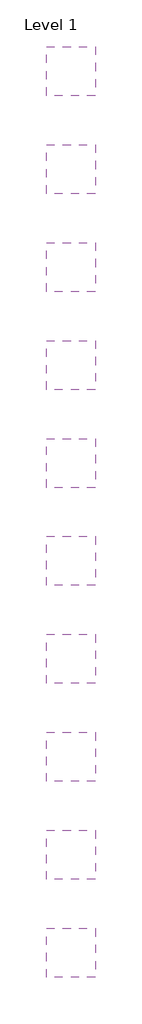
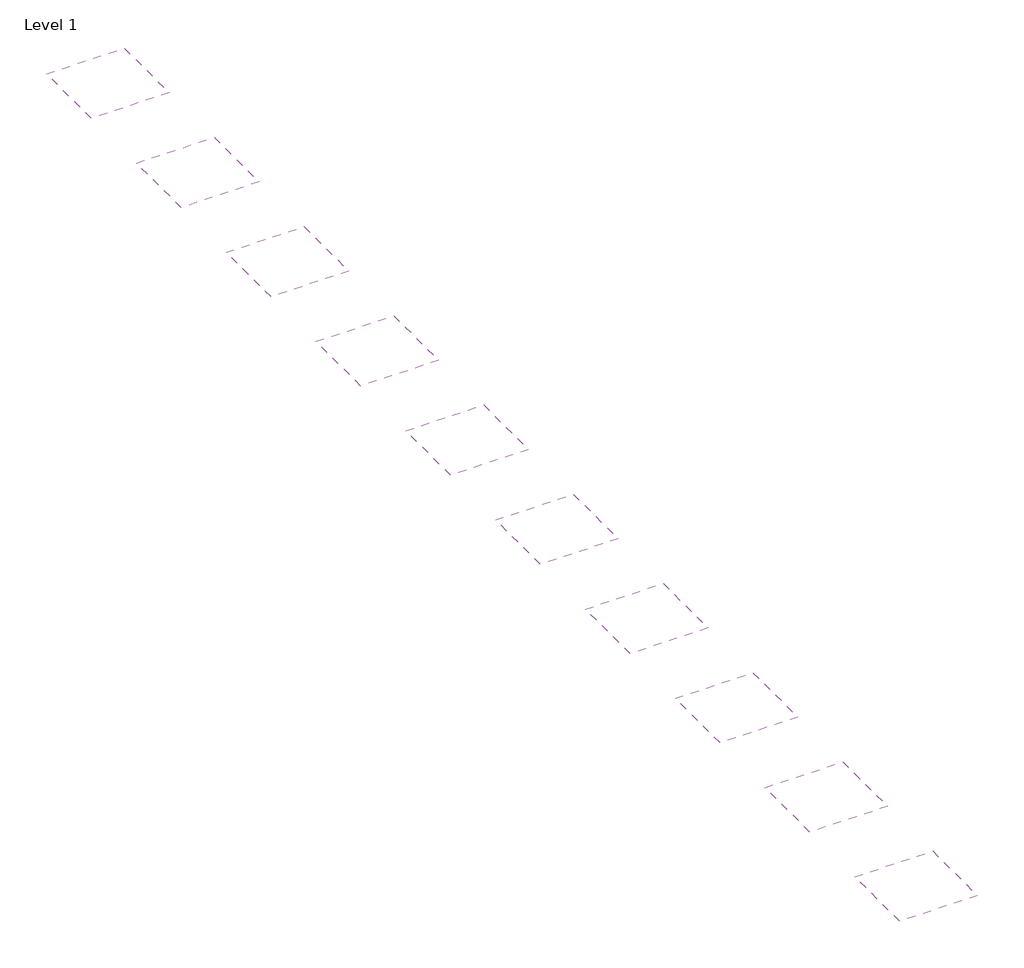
# One storey: 10 coverings.
"""IFC4 building model written with IfcOpenShell, lengths in millimetres."""

import ifcopenshell
import ifcopenshell.guid

model = None  # the IFC model being written
_history = None  # IfcOwnerHistory: only IFC2X3 demands one
_inside = {}  # id of a spatial element -> (the spatial element, [elements in it])
_under = {}  # id of a project, library or spatial element -> (it, [spatial elements below it])
_declared = {}  # id of a project -> (the project, [libraries it declares])
_typed = {}  # id of a type object -> (the type object, [elements of that type])
_made_of = {}  # id of a material, layer set ... -> (it, [elements and type objects made of it])


def new_model(schema):
    """Start an empty IFC model of exactly this schema.

    Asked for "IFC4X3", IfcOpenShell would pick the latest addendum, in which some entities
    have other attributes; the version numbers below select the first issue.
    IFC2X3 requires an IfcOwnerHistory on every rooted entity: one is made here for all.
    """
    global model, _history
    if schema == "IFC4X3":
        model = ifcopenshell.file(schema_version=(4, 3, 0, 0))
    else:
        model = ifcopenshell.file(schema=schema)
    _inside.clear()
    _under.clear()
    _declared.clear()
    _typed.clear()
    _made_of.clear()
    _history = None
    if model.schema == "IFC2X3":
        org = make("IfcOrganization", Name="unknown")
        user = make(
            "IfcPersonAndOrganization",
            ThePerson=make("IfcPerson", FamilyName="unknown"),
            TheOrganization=org,
        )
        app = make(
            "IfcApplication",
            ApplicationDeveloper=org,
            Version="unknown",
            ApplicationFullName="unknown",
            ApplicationIdentifier="unknown",
        )
        _history = make(
            "IfcOwnerHistory",
            OwningUser=user,
            OwningApplication=app,
            ChangeAction="ADDED",
            CreationDate=0,
        )
    return model


def make(cls, **values):
    """One entity of the class cls with the attributes given. An attribute that is None is left unset."""
    return model.create_entity(
        cls, **{name: value for name, value in values.items() if value is not None}
    )


def rooted(cls, **values):
    """An entity with a GlobalId (a new one), such as an element, a storey or a relation."""
    return make(cls, GlobalId=ifcopenshell.guid.new(), OwnerHistory=_history, **values)


def si_unit(unit_type, name, prefix=None):
    """IfcSIUnit, for example si_unit("LENGTHUNIT", "METRE", prefix="MILLI")."""
    return make("IfcSIUnit", UnitType=unit_type, Prefix=prefix, Name=name)


def assignment(units):
    """IfcUnitAssignment: the units of a project."""
    return None if units is None else make("IfcUnitAssignment", Units=units)


def point(xyz):
    """IfcCartesianPoint."""
    return None if xyz is None else make("IfcCartesianPoint", Coordinates=xyz)


def direction(xyz):
    """IfcDirection."""
    return None if xyz is None else make("IfcDirection", DirectionRatios=xyz)


def frame(location, z_axis=None, x_axis=None):
    """IfcAxis2Placement3D, a coordinate frame: its origin and axes. An axis left out is left unset."""
    return make(
        "IfcAxis2Placement3D",
        Location=point(location),
        Axis=direction(z_axis),
        RefDirection=direction(x_axis),
    )


def origin():
    """The frame at (0, 0, 0) with its axes left unset."""
    return frame((0.0, 0.0, 0.0))


def place(relative_to, where):
    """IfcLocalPlacement: puts the frame where relative to a parent placement (None: the world)."""
    return make(
        "IfcLocalPlacement", PlacementRelTo=relative_to, RelativePlacement=where
    )


def context(
    kind, dimensions, precision=None, world=None, true_north=None, identifier=None
):
    """IfcGeometricRepresentationContext, for example the 3D "Model" context."""
    return make(
        "IfcGeometricRepresentationContext",
        ContextIdentifier=identifier,
        ContextType=kind,
        CoordinateSpaceDimension=dimensions,
        Precision=precision,
        WorldCoordinateSystem=world,
        TrueNorth=true_north,
    )


def project(units=None, contexts=None):
    """IfcProject with its units and contexts."""
    return rooted(
        "IfcProject",
        Name="project",
        RepresentationContexts=contexts,
        UnitsInContext=assignment(units),
    )


def spatial(cls, under=None, at=None, **own):
    """A site, building, storey or space (cls), placed at a placement, below another one or the project."""
    s = rooted(cls, ObjectPlacement=at, **own)
    if under is not None:
        _under.setdefault(under.id(), (under, []))[1].append(s)
    return s


def polyline(points):
    """IfcPolyline through the points."""
    return make("IfcPolyline", Points=[point(p) for p in points])


def outline(outer, holes=None, kind="AREA"):
    """IfcArbitraryClosedProfileDef: a profile drawn as a closed curve; with holes, ...WithVoids."""
    if holes is None:
        return make("IfcArbitraryClosedProfileDef", ProfileType=kind, OuterCurve=outer)
    return make(
        "IfcArbitraryProfileDefWithVoids",
        ProfileType=kind,
        OuterCurve=outer,
        InnerCurves=holes,
    )


def extrude(swept, where, along, depth):
    """IfcExtrudedAreaSolid: the profile swept, set in the frame where, extruded along a direction by depth."""
    return make(
        "IfcExtrudedAreaSolid",
        SweptArea=swept,
        Position=where,
        ExtrudedDirection=direction(along),
        Depth=depth,
    )


def shape(context_of_items, identifier, shape_type, items):
    """IfcShapeRepresentation: the items that make up one representation, for example the "Body"."""
    return make(
        "IfcShapeRepresentation",
        ContextOfItems=context_of_items,
        RepresentationIdentifier=identifier,
        RepresentationType=shape_type,
        Items=items,
    )


def made_of(thing, what):
    """Note that an element or type object is made of a material, layer set ...; save() writes the relation."""
    if what is not None:
        _made_of.setdefault(what.id(), (what, []))[1].append(thing)
    return thing


def element(
    cls,
    number,
    at=None,
    inside=None,
    cuts=None,
    type_object=None,
    material=None,
    context=None,
    identifier="Body",
    shape_type=None,
    held_by="IfcProductDefinitionShape",
    body=None,
    shapes=None,
    **own,
):
    """One element of the class cls, such as IfcWall. Its Tag is "e" and its number.

    at: its placement. inside: the storey or other place that contains it. cuts: it is an
    opening in that element (IfcRelVoidsElement). A single representation is given by context,
    identifier, shape_type and body (its items); several are given by shapes. held_by: the class
    of the entity that holds the representations. save() writes the other relations.
    """
    e = rooted(cls, Tag="e%d" % number, ObjectPlacement=at, **own)
    if body is not None:
        shapes = [shape(context, identifier, shape_type, body)]
    if shapes is not None:
        e.Representation = make(held_by, Representations=shapes)
    if inside is not None:
        _inside.setdefault(inside.id(), (inside, []))[1].append(e)
    if cuts is not None:
        rooted(
            "IfcRelVoidsElement", RelatingBuildingElement=cuts, RelatedOpeningElement=e
        )
    if type_object is not None:
        _typed.setdefault(type_object.id(), (type_object, []))[1].append(e)
    return made_of(e, material)


def aggregate(whole, parts):
    """IfcRelAggregates: a whole, such as a stair, and the parts it consists of."""
    return rooted("IfcRelAggregates", RelatingObject=whole, RelatedObjects=parts)


def save(model, path):
    """Write the relations noted so far, then the file.

    IfcRelAggregates (storeys below a building ...), IfcRelContainedInSpatialStructure (elements
    in a storey), IfcRelDefinesByType, IfcRelAssociatesMaterial and IfcRelDeclares: one each for
    every whole, place, type object, material and project.
    """
    for whole, parts in _under.values():
        aggregate(whole, parts)
    for where, things in _inside.values():
        rooted(
            "IfcRelContainedInSpatialStructure",
            RelatedElements=things,
            RelatingStructure=where,
        )
    for kind, things in _typed.values():
        rooted("IfcRelDefinesByType", RelatedObjects=things, RelatingType=kind)
    for what, things in _made_of.values():
        rooted("IfcRelAssociatesMaterial", RelatedObjects=things, RelatingMaterial=what)
    for by, libraries in _declared.values():
        rooted("IfcRelDeclares", RelatingContext=by, RelatedDefinitions=libraries)
    model.write(path)


model = new_model("IFC4")

# Units and contexts
model_context = context("Model", 3, world=origin())
ifc_project = project(units=[si_unit("LENGTHUNIT", "METRE", prefix="MILLI")], contexts=[model_context])

# Site, building, storey
site = spatial("IfcSite", under=ifc_project)
building = spatial("IfcBuilding", under=site)
storey = spatial("IfcBuildingStorey", under=building, Name="Level 1", Elevation=0.0)

# Coverings
placement = place(None, origin())
element("IfcCovering", 1, ObjectType="NBS_ArmstrongCeilingsLtd_UnitModularSuspendedCeilingSystem_LayInMicroLook8_Plain-Prelude15Exposed_600x600x8mm_GB", at=placement, inside=storey, context=model_context, shape_type="SweptSolid", body=[
    extrude(outline(polyline([(2500.0, 47500.0), (2500.0, 45000.0), (0.0, 45000.0), (0.0, 47500.0), (2500.0, 47500.0)])), frame((0.0, 0.0, 2600.0), z_axis=(0.0, 0.0, 1.0), x_axis=(1.0, 0.0, 0.0)), (0.0, 0.0, 1.0), 51.0),
])
element("IfcCovering", 2, ObjectType="NBS_ArmstrongCeilingsLtd_UnitModularSuspendedCeilingSystem_LayInMicroLook8_Rd1522-AcousticFleece-Prelude15Exposed_600x600x8mm_GB", at=placement, inside=storey, context=model_context, shape_type="SweptSolid", body=[
    extrude(outline(polyline([(2500.0, 42500.0), (2500.0, 40000.0), (0.0, 40000.0), (0.0, 42500.0), (2500.0, 42500.0)])), frame((0.0, 0.0, 2600.0), z_axis=(0.0, 0.0, 1.0), x_axis=(1.0, 0.0, 0.0)), (0.0, 0.0, 1.0), 51.0),
])
element("IfcCovering", 3, ObjectType="NBS_ArmstrongCeilingsLtd_UnitModularSuspendedCeilingSystem_LayInMicroLook8_Rd1522-B15-Prelude15Exposed_600x600x8mm_GB", at=placement, inside=storey, context=model_context, shape_type="SweptSolid", body=[
    extrude(outline(polyline([(2500.0, 37500.0), (2500.0, 35000.0), (0.0, 35000.0), (0.0, 37500.0), (2500.0, 37500.0)])), frame((0.0, 0.0, 2600.0), z_axis=(0.0, 0.0, 1.0), x_axis=(1.0, 0.0, 0.0)), (0.0, 0.0, 1.0), 51.0),
])
element("IfcCovering", 4, ObjectType="NBS_ArmstrongCeilingsLtd_UnitModularSuspendedCeilingSystem_LayInMicroLook8_Rd1522-OP19-Prelude15Exposed_600x600x8mm_GB", at=placement, inside=storey, context=model_context, shape_type="SweptSolid", body=[
    extrude(outline(polyline([(2500.0, 32500.0), (2500.0, 30000.0), (0.0, 30000.0), (0.0, 32500.0), (2500.0, 32500.0)])), frame((0.0, 0.0, 2600.0), z_axis=(0.0, 0.0, 1.0), x_axis=(1.0, 0.0, 0.0)), (0.0, 0.0, 1.0), 51.0),
])
element("IfcCovering", 5, ObjectType="NBS_ArmstrongCeilingsLtd_UnitModularSuspendedCeilingSystem_LayInMicroLook8_Rg0701-AcousticFleece-Prelude15Exposed_600x600x8mm_GB", at=placement, inside=storey, context=model_context, shape_type="SweptSolid", body=[
    extrude(outline(polyline([(2500.0, 27500.0), (2500.0, 25000.0), (0.0, 25000.0), (0.0, 27500.0), (2500.0, 27500.0)])), frame((0.0, 0.0, 2600.0), z_axis=(0.0, 0.0, 1.0), x_axis=(1.0, 0.0, 0.0)), (0.0, 0.0, 1.0), 51.0),
])
element("IfcCovering", 6, ObjectType="NBS_ArmstrongCeilingsLtd_UnitModularSuspendedCeilingSystem_LayInMicroLook8_Rg0701-B15-Prelude15Exposed_600x600x8mm_GB", at=placement, inside=storey, context=model_context, shape_type="SweptSolid", body=[
    extrude(outline(polyline([(2500.0, 22500.0), (2500.0, 20000.0), (0.0, 20000.0), (0.0, 22500.0), (2500.0, 22500.0)])), frame((0.0, 0.0, 2600.0), z_axis=(0.0, 0.0, 1.0), x_axis=(1.0, 0.0, 0.0)), (0.0, 0.0, 1.0), 51.0),
])
element("IfcCovering", 7, ObjectType="NBS_ArmstrongCeilingsLtd_UnitModularSuspendedCeilingSystem_LayInMicroLook8_Rg0701-OP19-Prelude15Exposed_600x600x8mm_GB", at=placement, inside=storey, context=model_context, shape_type="SweptSolid", body=[
    extrude(outline(polyline([(2500.0, 17500.0), (2500.0, 15000.0), (0.0, 15000.0), (0.0, 17500.0), (2500.0, 17500.0)])), frame((0.0, 0.0, 2600.0), z_axis=(0.0, 0.0, 1.0), x_axis=(1.0, 0.0, 0.0)), (0.0, 0.0, 1.0), 51.0),
])
element("IfcCovering", 8, ObjectType="NBS_ArmstrongCeilingsLtd_UnitModularSuspendedCeilingSystem_LayInMicroLook8_Rg2516-AcousticFleece-Prelude15Exposed_600x600x8mm_GB", at=placement, inside=storey, context=model_context, shape_type="SweptSolid", body=[
    extrude(outline(polyline([(2500.0, 12500.0), (2500.0, 10000.0), (0.0, 10000.0), (0.0, 12500.0), (2500.0, 12500.0)])), frame((0.0, 0.0, 2600.0), z_axis=(0.0, 0.0, 1.0), x_axis=(1.0, 0.0, 0.0)), (0.0, 0.0, 1.0), 51.0),
])
element("IfcCovering", 9, ObjectType="NBS_ArmstrongCeilingsLtd_UnitModularSuspendedCeilingSystem_LayInMicroLook8_Rg2516-B15-Prelude15Exposed_600x600x8mm_GB", at=placement, inside=storey, context=model_context, shape_type="SweptSolid", body=[
    extrude(outline(polyline([(2500.0, 7500.0), (2500.0, 5000.0), (0.0, 5000.0), (0.0, 7500.0), (2500.0, 7500.0)])), frame((0.0, 0.0, 2600.0), z_axis=(0.0, 0.0, 1.0), x_axis=(1.0, 0.0, 0.0)), (0.0, 0.0, 1.0), 51.0),
])
element("IfcCovering", 10, ObjectType="NBS_ArmstrongCeilingsLtd_UnitModularSuspendedCeilingSystem_LayInMicroLook8_Rg2516-OP19-Prelude15Exposed_600x600x8mm_GB", at=placement, inside=storey, context=model_context, shape_type="SweptSolid", body=[
    extrude(outline(polyline([(2500.0, 2500.0), (2500.0, 0.0), (0.0, 0.0), (0.0, 2500.0), (2500.0, 2500.0)])), frame((0.0, 0.0, 2600.0), z_axis=(0.0, 0.0, 1.0), x_axis=(1.0, 0.0, 0.0)), (0.0, 0.0, 1.0), 51.0),
])

save(model, "model.ifc")
